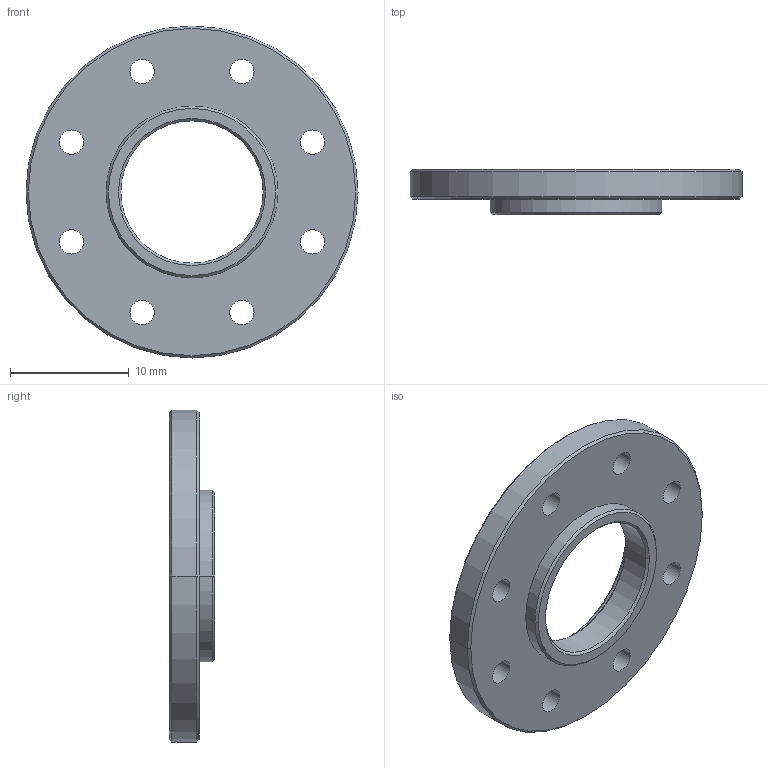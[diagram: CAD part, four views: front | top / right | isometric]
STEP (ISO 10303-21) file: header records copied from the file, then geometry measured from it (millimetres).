
FILE_DESCRIPTION((''),'2;1');
FILE_NAME('DC05_00A_HORN_IDLE','2006-12-06T',('bono'),(''),'PRO/ENGINEER BY PARAMETRIC TECHNOLOGY CORPORATION, 2006170','PRO/ENGINEER BY PARAMETRIC TECHNOLOGY CORPORATION, 2006170','');
FILE_SCHEMA(('CONFIG_CONTROL_DESIGN'));
Length unit declared in the file: millimetre
Products named in the file (1): DC05_00A_HORN_IDLE
Bounding box: 28 x 3.8 x 28 mm (x, y, z)
Volume: 1208.8 mm3; surface area: 1463 mm2
Topology: 1 solids, 1 shells, 56 faces, 128 edges, 76 vertices
Faces by surface type: cone 28, cylinder 24, plane 4
Entity records: 1658 total; most frequent: DIRECTION 316, CARTESIAN_POINT 260, ORIENTED_EDGE 256, AXIS2_PLACEMENT_3D 132, EDGE_CURVE 128, VERTEX_POINT 76, EDGE_LOOP 76, CIRCLE 76
